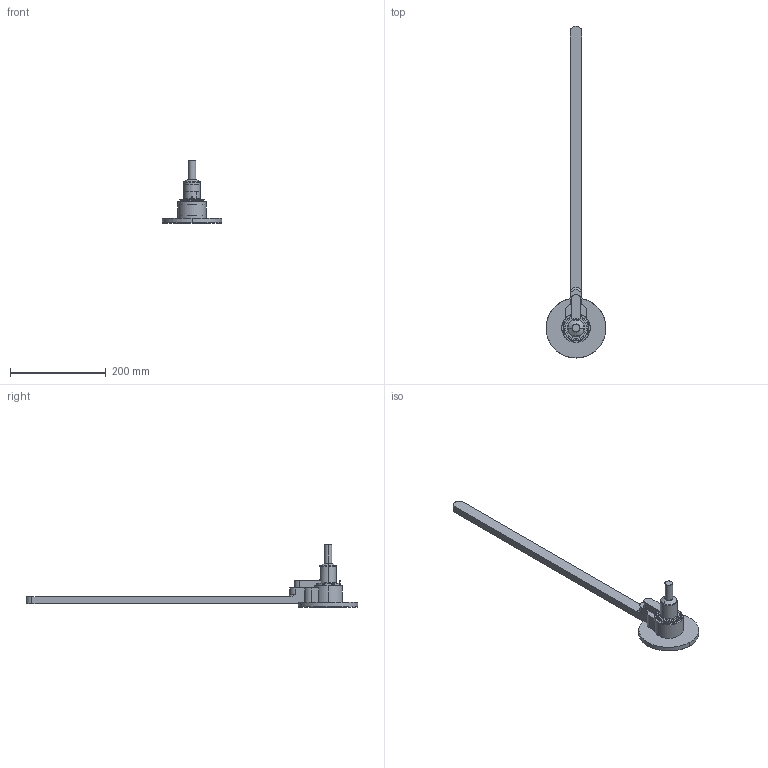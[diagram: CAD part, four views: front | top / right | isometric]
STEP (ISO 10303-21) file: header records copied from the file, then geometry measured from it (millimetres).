
FILE_DESCRIPTION (( 'STEP AP214' ), '1' );
FILE_NAME ('12S-06-060_##P.STEP', '2023-01-12T09:23:50', ( '' ), ( '' ), 'SwSTEP 2.0', 'SolidWorks 2018', '' );
FILE_SCHEMA (( 'AUTOMOTIVE_DESIGN' ));
Length unit declared in the file: millimetre
Products named in the file (3): 12S-06 cutout_TFP; 12S-06 nozzle_TFP; 12S-06-060_##P
Assembly tree (2 placements, depth 2):
  12S-06-060_##P
    12S-06 nozzle_TFP
    12S-06 cutout_TFP
Bounding box: 125 x 693.5 x 130 mm (x, y, z)
Volume: 648539.8 mm3; surface area: 114926.5 mm2
Topology: 4 solids, 5 shells, 443 faces, 1114 edges, 693 vertices
Faces by surface type: plane 165, cylinder 154, cone 86, torus 30, sphere 5, bspline 3
Entity records: 14057 total; most frequent: CARTESIAN_POINT 3127, DIRECTION 2358, ORIENTED_EDGE 2206, EDGE_CURVE 1103, AXIS2_PLACEMENT_3D 907, VERTEX_POINT 693, LINE 544, VECTOR 544
